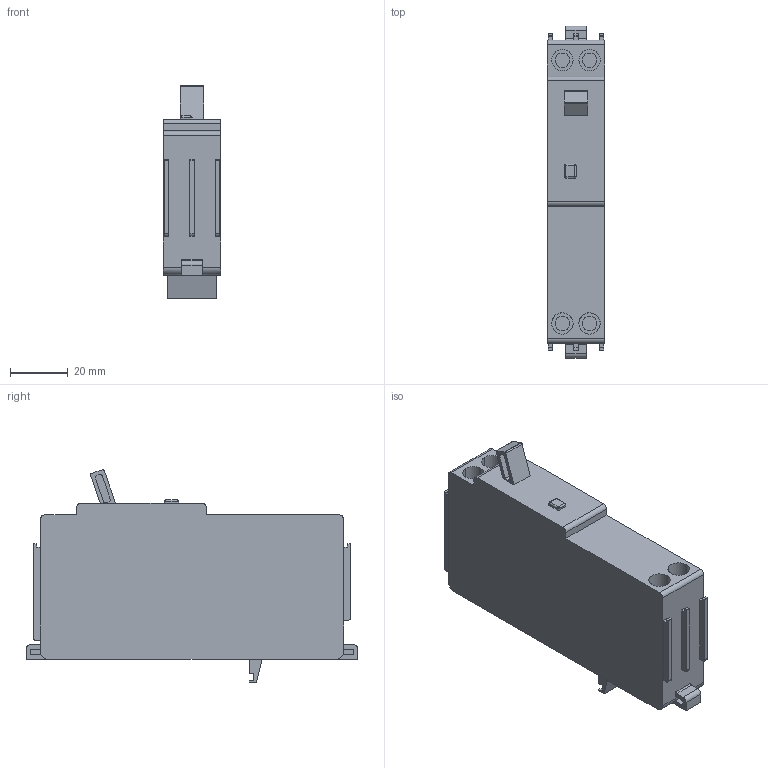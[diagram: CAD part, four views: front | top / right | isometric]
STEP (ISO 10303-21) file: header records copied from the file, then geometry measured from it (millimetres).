
FILE_DESCRIPTION (( 'STEP AP203' ), '1' );
FILE_NAME ('32Fcz.STEP', '2018-01-04T00:40:55', ( '' ), ( '' ), 'SwSTEP 2.0', 'SolidWorks 2015', '' );
FILE_SCHEMA (( 'CONFIG_CONTROL_DESIGN' ));
Length unit declared in the file: millimetre
Products named in the file (1): 32Fcz
Bounding box: 20 x 115 x 73.69 mm (x, y, z)
Volume: 106278.7 mm3; surface area: 21480.2 mm2
Topology: 1 solids, 1 shells, 184 faces, 483 edges, 316 vertices
Faces by surface type: plane 125, cylinder 51, bspline 4, sphere 4
Entity records: 5942 total; most frequent: CARTESIAN_POINT 1264, ORIENTED_EDGE 958, DIRECTION 939, EDGE_CURVE 479, LINE 365, VECTOR 365, VERTEX_POINT 316, AXIS2_PLACEMENT_3D 287
